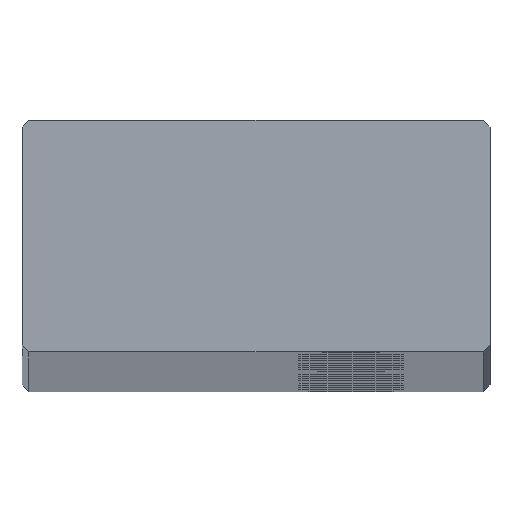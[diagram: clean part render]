
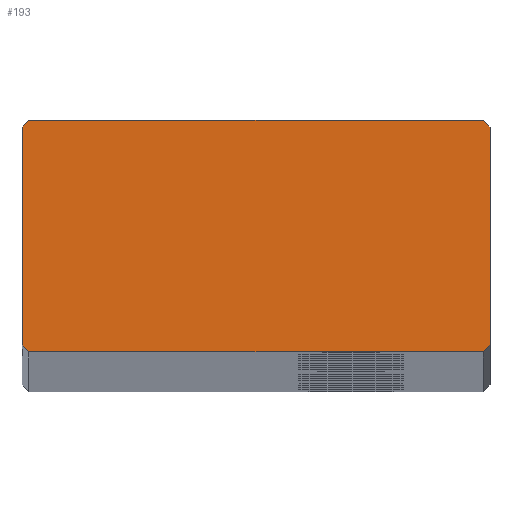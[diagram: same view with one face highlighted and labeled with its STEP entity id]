
A CAD part, top view. The second image highlights one B-rep face of the part: STEP entity #193.
In plain terms, the highlighted planar face has unit normal (0, 0, 1).
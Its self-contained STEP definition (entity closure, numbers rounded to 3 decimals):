
#193=ADVANCED_FACE('',(#498),#499,.T.);
#498=FACE_OUTER_BOUND('',#804,.T.);
#499=PLANE('',#805);
#804=EDGE_LOOP('',(#1722,#1723,#1724,#1725,#1726,#1727,#1728,#1729));
#805=AXIS2_PLACEMENT_3D('',#1730,#1731,#1732);
#1722=ORIENTED_EDGE('',*,*,#2008,.F.);
#1723=ORIENTED_EDGE('',*,*,#2030,.F.);
#1724=ORIENTED_EDGE('',*,*,#2027,.F.);
#1725=ORIENTED_EDGE('',*,*,#2024,.F.);
#1726=ORIENTED_EDGE('',*,*,#2021,.F.);
#1727=ORIENTED_EDGE('',*,*,#2018,.F.);
#1728=ORIENTED_EDGE('',*,*,#2015,.F.);
#1729=ORIENTED_EDGE('',*,*,#2012,.F.);
#1730=CARTESIAN_POINT('',(0.,10.0,1976.0));
#1731=DIRECTION('',(0.0,0.0,1.0));
#1732=DIRECTION('',(1.0,0.0,0.0));
#2008=EDGE_CURVE('',#2472,#2473,#2474,.T.);
#2012=EDGE_CURVE('',#2473,#2480,#2481,.T.);
#2015=EDGE_CURVE('',#2480,#2485,#2486,.T.);
#2018=EDGE_CURVE('',#2485,#2490,#2491,.T.);
#2021=EDGE_CURVE('',#2490,#2495,#2496,.T.);
#2024=EDGE_CURVE('',#2495,#2500,#2501,.T.);
#2027=EDGE_CURVE('',#2500,#2505,#2506,.T.);
#2030=EDGE_CURVE('',#2505,#2472,#2510,.T.);
#2472=VERTEX_POINT('',#3040);
#2473=VERTEX_POINT('',#3041);
#2474=LINE('',#3042,#3043);
#2480=VERTEX_POINT('',#3052);
#2481=LINE('',#3053,#3054);
#2485=VERTEX_POINT('',#3060);
#2486=LINE('',#3061,#3062);
#2490=VERTEX_POINT('',#3068);
#2491=LINE('',#3069,#3070);
#2495=VERTEX_POINT('',#3076);
#2496=LINE('',#3077,#3078);
#2500=VERTEX_POINT('',#3084);
#2501=LINE('',#3085,#3086);
#2505=VERTEX_POINT('',#3092);
#2506=LINE('',#3093,#3094);
#2510=LINE('',#3100,#3101);
#3040=CARTESIAN_POINT('',(-19.6,0.,1976.0));
#3041=CARTESIAN_POINT('',(-20.2,0.6,1976.0));
#3042=CARTESIAN_POINT('',(-19.6,0.,1976.0));
#3043=VECTOR('',#3720,1.0);
#3052=CARTESIAN_POINT('',(-20.2,19.4,1976.0));
#3053=CARTESIAN_POINT('',(-20.2,0.6,1976.0));
#3054=VECTOR('',#3724,1.0);
#3060=CARTESIAN_POINT('',(-19.6,20.0,1976.0));
#3061=CARTESIAN_POINT('',(-20.2,19.4,1976.0));
#3062=VECTOR('',#3727,1.0);
#3068=CARTESIAN_POINT('',(19.6,20.0,1976.0));
#3069=CARTESIAN_POINT('',(-19.6,20.0,1976.0));
#3070=VECTOR('',#3730,1.0);
#3076=CARTESIAN_POINT('',(20.2,19.4,1976.0));
#3077=CARTESIAN_POINT('',(19.6,20.0,1976.0));
#3078=VECTOR('',#3733,1.0);
#3084=CARTESIAN_POINT('',(20.2,0.6,1976.0));
#3085=CARTESIAN_POINT('',(20.2,0.6,1976.0));
#3086=VECTOR('',#3736,1.0);
#3092=CARTESIAN_POINT('',(19.6,0.,1976.0));
#3093=CARTESIAN_POINT('',(19.6,0.,1976.0));
#3094=VECTOR('',#3739,1.0);
#3100=CARTESIAN_POINT('',(-19.6,0.,1976.0));
#3101=VECTOR('',#3742,1.0);
#3720=DIRECTION('',(-0.707,0.707,0.0));
#3724=DIRECTION('',(0.0,1.0,0.0));
#3727=DIRECTION('',(0.707,0.707,0.0));
#3730=DIRECTION('',(1.0,0.0,0.0));
#3733=DIRECTION('',(0.707,-0.707,0.0));
#3736=DIRECTION('',(-0.0,-1.0,-0.0));
#3739=DIRECTION('',(-0.707,-0.707,-0.0));
#3742=DIRECTION('',(-1.0,-0.0,-0.0));
